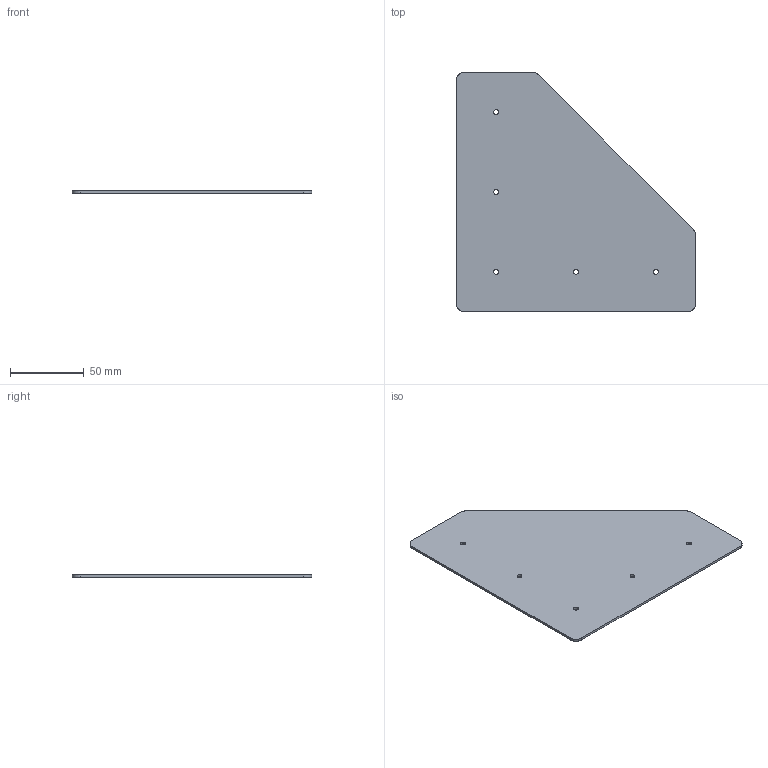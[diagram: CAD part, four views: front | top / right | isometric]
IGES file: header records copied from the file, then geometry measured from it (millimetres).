
Start section: SolidWorks IGES file using analytic representation for surfaces
Global section: file name: C:\Working\Gusset Convert\DRP-002-0003-02.igs; native system: SolidWorks 2010; preprocessor: SolidWorks 2010; author: mbush2; date: 100623.154052; units: inch
Bounding box: 161.93 x 161.93 x 1.59 mm (x, y, z)
Surface area: 41656.2 mm2 (no closed solid volume)
Topology: 0 solids, 0 shells, 22 faces, 314 edges, 314 vertices
Faces by surface type: revolution 15, bspline 7
